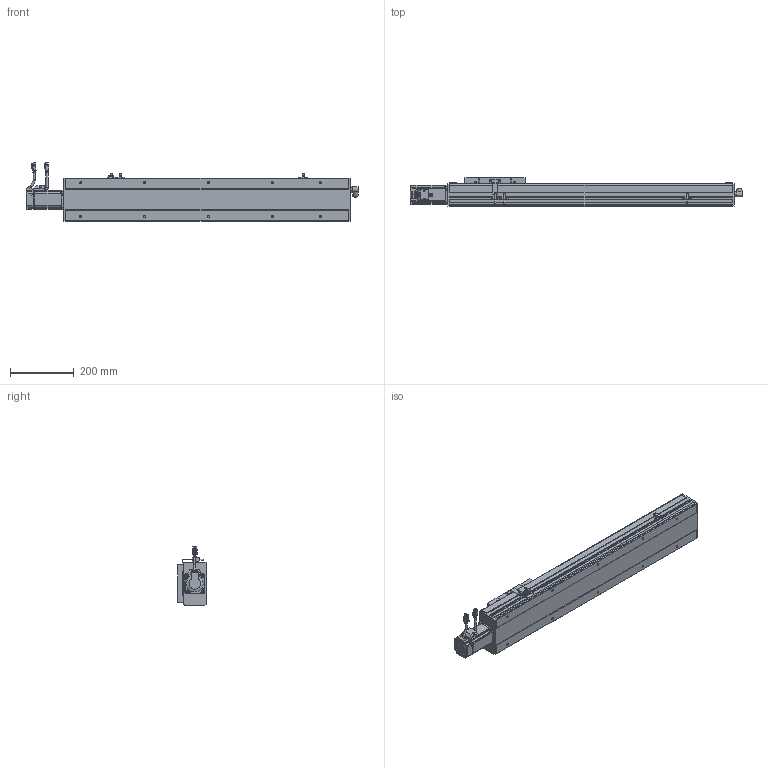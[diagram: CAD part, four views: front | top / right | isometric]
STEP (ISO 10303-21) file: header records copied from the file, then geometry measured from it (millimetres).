
FILE_DESCRIPTION(/* description */ ('STEP AP214'),/* implementation_level */ '2;1');
FILE_NAME(/* name */ 'PSC140-L05-S600-BC-P40-C1-N(0)',/* time_stamp */ '2022-06-13T03:14:44+02:00',/* author */ ('License CC BY-ND 4.0'),/* organization */ ('CADENAS'),/* preprocessor_version */ 'ST-DEVELOPER v18.102',/* originating_system */ 'PARTsolutions',/* authorisation */ ' ');
FILE_SCHEMA (('AUTOMOTIVE_DESIGN {1 0 10303 214 3 1 1}'));
Length unit declared in the file: millimetre
Products named in the file (10): PSC140-L05-S600-BC-P40-C1-N(0); P40-s2; P40-c2; P40-s1; P40-c1; P40-p1; PSC140-sensor; PSC140-BC-SLIDER; PSC140-S600-BC-P40-C1_BODY1; PSC140-L05-S600-BC-P40-C1-N(0)_dummy
Assembly tree (11 placements, depth 2):
  PSC140-L05-S600-BC-P40-C1-N(0)
    P40-s2
    P40-c2
    P40-s1
    P40-c1
    P40-p1
    PSC140-sensor  x3
    PSC140-BC-SLIDER
    PSC140-S600-BC-P40-C1_BODY1
    PSC140-L05-S600-BC-P40-C1-N(0)_dummy
Bounding box: 1039 x 91 x 182.48 mm (x, y, z)
Volume: 9248014.1 mm3; surface area: 560079 mm2
Topology: 10 solids, 10 shells, 1244 faces, 3210 edges, 2121 vertices
Faces by surface type: plane 864, cylinder 315, cone 46, torus 19
Full cylindrical faces by diameter (mm): 1 x8, 2.6 x10, 2.8 x3, 3.3 x8, 4.5 x12, 4.6 x3, 4.917 x14, 5 x4, 5.5 x8, 6 x10, 6.08 x4, 7 x10, 9 x2, 10 x1, 11 x1, 13.74 x1, 14 x1, 16.4 x2, 16.5 x1, 19.98 x1, 31.98 x1, 35.5 x1, 50 x2
Entity records: 34358 total; most frequent: CARTESIAN_POINT 6001, DIRECTION 5779, ORIENTED_EDGE 5570, EDGE_CURVE 2785, LINE 2109, VECTOR 2109, VERTEX_POINT 1942, AXIS2_PLACEMENT_3D 1835
